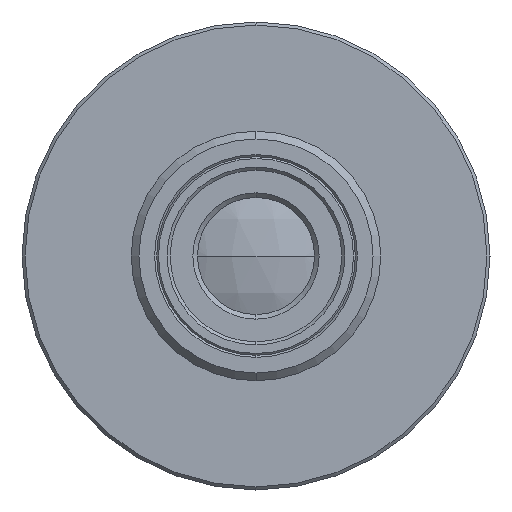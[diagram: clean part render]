
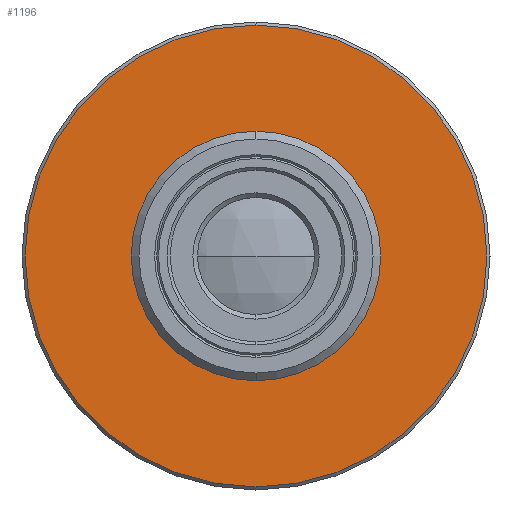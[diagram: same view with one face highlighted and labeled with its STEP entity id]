
A CAD part, left-side view. The second image highlights one B-rep face of the part: STEP entity #1196.
In plain terms, the highlighted planar face has unit normal (-1, 0, 0).
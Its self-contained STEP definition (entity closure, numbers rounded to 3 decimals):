
#43 = DIRECTION ( 'NONE',  ( -1., 0., 0. ) ) ;
#51 = CIRCLE ( 'NONE', #1840, 14.8 ) ;
#53 = VERTEX_POINT ( 'NONE', #1499 ) ;
#87 = CIRCLE ( 'NONE', #1651, 14.8 ) ;
#150 = CARTESIAN_POINT ( 'NONE',  ( 24.47, 0., 0. ) ) ;
#155 = EDGE_CURVE ( 'NONE', #1812, #1298, #1966, .T. ) ;
#189 = DIRECTION ( 'NONE',  ( -1., 0., 0. ) ) ;
#203 = EDGE_CURVE ( 'NONE', #1298, #1812, #359, .T. ) ;
#274 = FACE_BOUND ( 'NONE', #576, .T. ) ;
#289 = ORIENTED_EDGE ( 'NONE', *, *, #676, .T. ) ;
#300 = DIRECTION ( 'NONE',  ( 0., 0., 1. ) ) ;
#359 = CIRCLE ( 'NONE', #1310, 8. ) ;
#530 = ORIENTED_EDGE ( 'NONE', *, *, #1323, .T. ) ;
#576 = EDGE_LOOP ( 'NONE', ( #720, #1845 ) ) ;
#630 = VERTEX_POINT ( 'NONE', #1701 ) ;
#638 = DIRECTION ( 'NONE',  ( -1., 0., 0. ) ) ;
#676 = EDGE_CURVE ( 'NONE', #53, #630, #51, .T. ) ;
#720 = ORIENTED_EDGE ( 'NONE', *, *, #203, .F. ) ;
#735 = AXIS2_PLACEMENT_3D ( 'NONE', #1578, #1433, #1884 ) ;
#889 = AXIS2_PLACEMENT_3D ( 'NONE', #1549, #638, #1706 ) ;
#952 = CARTESIAN_POINT ( 'NONE',  ( 24.47, 0., 0. ) ) ;
#1105 = CARTESIAN_POINT ( 'NONE',  ( 24.47, 0., 0. ) ) ;
#1117 = DIRECTION ( 'NONE',  ( 0., 0., 1. ) ) ;
#1173 = EDGE_LOOP ( 'NONE', ( #530, #289 ) ) ;
#1196 = ADVANCED_FACE ( 'NONE', ( #274, #1347 ), #1736, .F. ) ;
#1213 = DIRECTION ( 'NONE',  ( -1., 0., 0. ) ) ;
#1236 = CARTESIAN_POINT ( 'NONE',  ( 24.47, 0., -8. ) ) ;
#1252 = DIRECTION ( 'NONE',  ( 0., 0., 1. ) ) ;
#1298 = VERTEX_POINT ( 'NONE', #1533 ) ;
#1310 = AXIS2_PLACEMENT_3D ( 'NONE', #150, #1213, #300 ) ;
#1323 = EDGE_CURVE ( 'NONE', #630, #53, #87, .T. ) ;
#1347 = FACE_OUTER_BOUND ( 'NONE', #1173, .T. ) ;
#1433 = DIRECTION ( 'NONE',  ( 1., 0., 0. ) ) ;
#1499 = CARTESIAN_POINT ( 'NONE',  ( 24.47, 0., 14.8 ) ) ;
#1533 = CARTESIAN_POINT ( 'NONE',  ( 24.47, 0., 8. ) ) ;
#1549 = CARTESIAN_POINT ( 'NONE',  ( 24.47, 0., 0. ) ) ;
#1578 = CARTESIAN_POINT ( 'NONE',  ( 24.47, 8., 0. ) ) ;
#1651 = AXIS2_PLACEMENT_3D ( 'NONE', #1105, #189, #1252 ) ;
#1701 = CARTESIAN_POINT ( 'NONE',  ( 24.47, 0., -14.8 ) ) ;
#1706 = DIRECTION ( 'NONE',  ( 0., 0., 1. ) ) ;
#1736 = PLANE ( 'NONE',  #735 ) ;
#1812 = VERTEX_POINT ( 'NONE', #1236 ) ;
#1840 = AXIS2_PLACEMENT_3D ( 'NONE', #952, #43, #1117 ) ;
#1845 = ORIENTED_EDGE ( 'NONE', *, *, #155, .F. ) ;
#1884 = DIRECTION ( 'NONE',  ( 0., 0., -1. ) ) ;
#1966 = CIRCLE ( 'NONE', #889, 8. ) ;
